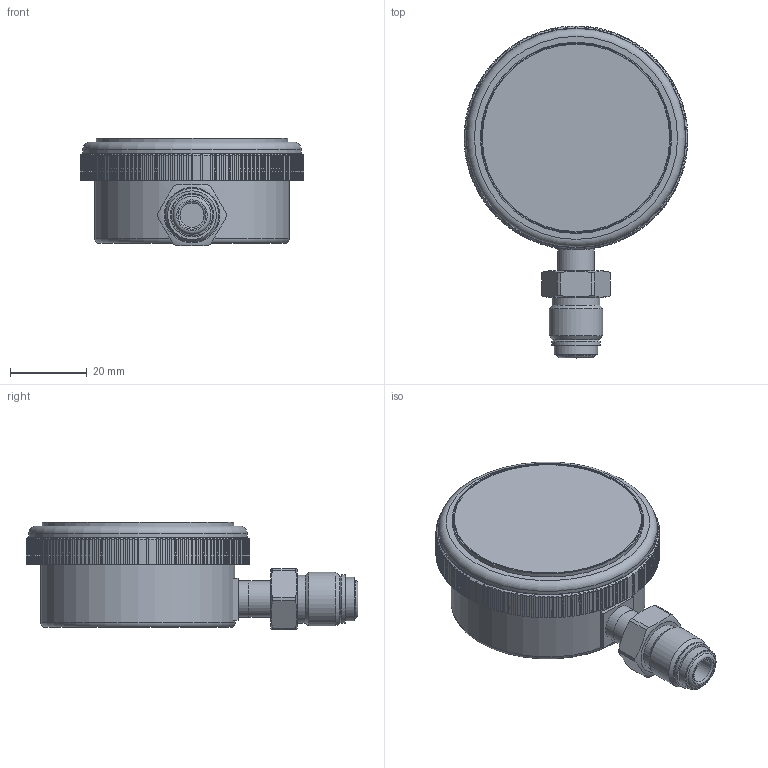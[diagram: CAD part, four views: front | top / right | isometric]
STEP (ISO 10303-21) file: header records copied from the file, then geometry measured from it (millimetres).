
FILE_DESCRIPTION(/* description */ ('STEP AP203'),/* implementation_level */ '2;1');
FILE_NAME(/* name */ 'P800_50PI_LOW MOUNT_SWIVEL(M).stp',/* time_stamp */ '2025-03-26T19:12:45+09:00',/* author */ ('wise-209'),/* organization */ (''),/* preprocessor_version */ 'ST-DEVELOPER v19.2',/* originating_system */ 'Autodesk Inventor 2024',/* authorisation */ '');
FILE_SCHEMA (('AUTOMOTIVE_DESIGN { 1 0 10303 214 3 1 1 }'));
Length unit declared in the file: millimetre
Products named in the file (3): P820_50A_SM; 3054016361; P810_CASE,COVER,SHANK_ VCR
Assembly tree (2 placements, depth 2):
  P820_50A_SM
    3054016361
    P810_CASE,COVER,SHANK_ VCR
Bounding box: 58.5 x 86.75 x 28.12 mm (x, y, z)
Volume: 56918.1 mm3; surface area: 18130.1 mm2
Topology: 2 solids, 3 shells, 637 faces, 1849 edges, 1230 vertices
Faces by surface type: plane 460, cylinder 162, torus 8, cone 7
Full cylindrical faces by diameter (mm): 6.3 x1, 9.53 x2, 11.4 x1, 12.5 x1, 12.7 x1, 14 x1, 48.998 x1, 50 x1, 50.8 x1, 55.5 x1, 57.1 x1
Entity records: 26117 total; most frequent: CARTESIAN_POINT 8719, ORIENTED_EDGE 3698, DIRECTION 3615, EDGE_CURVE 1849, LINE 1337, VECTOR 1337, VERTEX_POINT 1230, AXIS2_PLACEMENT_3D 1139
